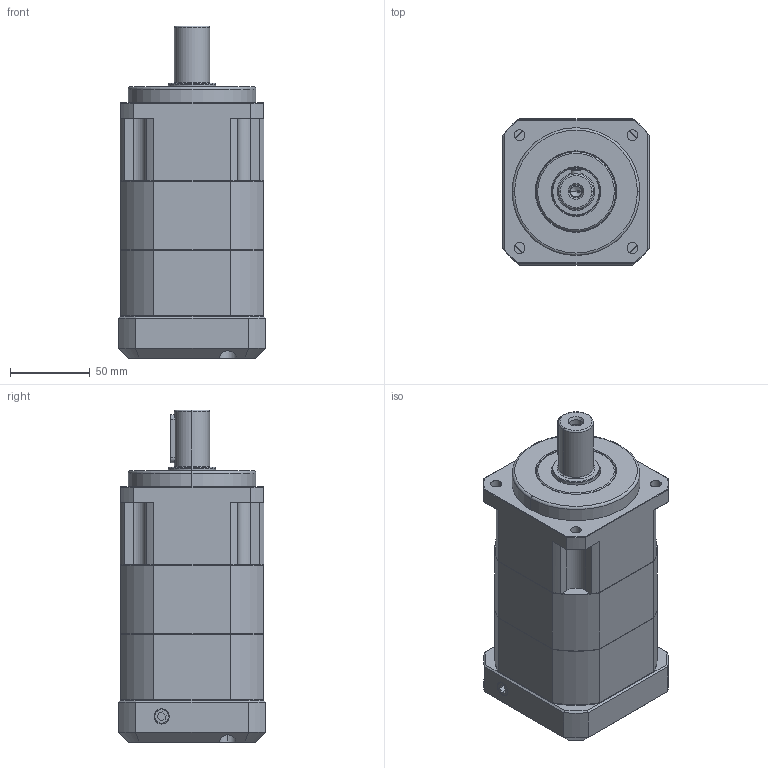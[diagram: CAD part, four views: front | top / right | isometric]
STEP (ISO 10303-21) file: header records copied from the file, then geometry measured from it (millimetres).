
FILE_DESCRIPTION (( 'STEP AP203' ), '1' );
FILE_NAME ('SB90A-2-70M6-3.step', '2020-08-12T02:39:53', ( 'lim' ), ( '' ), 'SwSTEP 2.0', 'SolidWorks 2020', '' );
FILE_SCHEMA (( 'CONFIG_CONTROL_DESIGN' ));
Length unit declared in the file: millimetre
Products named in the file (1): SB90A-2-70M6-3
Bounding box: 92 x 92 x 208 mm (x, y, z)
Volume: 1024914.5 mm3; surface area: 126538.5 mm2
Topology: 2 solids, 8 shells, 597 faces, 1432 edges, 870 vertices
Faces by surface type: plane 244, cylinder 191, cone 138, torus 24
Entity records: 17596 total; most frequent: CARTESIAN_POINT 3456, DIRECTION 3123, ORIENTED_EDGE 2812, EDGE_CURVE 1406, AXIS2_PLACEMENT_3D 1219, VERTEX_POINT 870, LINE 685, VECTOR 685
